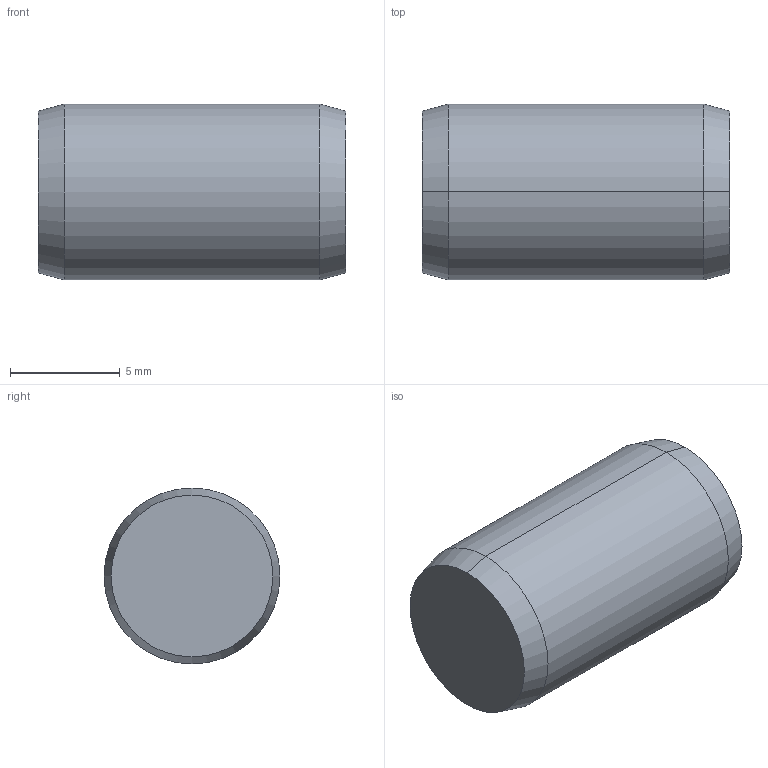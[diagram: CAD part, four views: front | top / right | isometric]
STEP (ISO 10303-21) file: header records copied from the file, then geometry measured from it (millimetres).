
FILE_DESCRIPTION (( 'STEP AP203' ), '1' );
FILE_NAME ('P1206.080-014.step', '2017-06-14T08:25:11', ( 'User' ), ( '' ), 'SwSTEP 2.0', 'SolidWorks 2009', '' );
FILE_SCHEMA (( 'CONFIG_CONTROL_DESIGN' ));
Length unit declared in the file: millimetre
Products named in the file (1): P1206.080-014
Bounding box: 14 x 8 x 8 mm (x, y, z)
Volume: 694.3 mm3; surface area: 436.5 mm2
Topology: 1 solids, 1 shells, 8 faces, 14 edges, 8 vertices
Faces by surface type: cone 4, cylinder 2, plane 2
Entity records: 271 total; most frequent: DIRECTION 40, CARTESIAN_POINT 31, ORIENTED_EDGE 28, AXIS2_PLACEMENT_3D 17, EDGE_CURVE 14, PERSON_AND_ORGANIZATION 8, CIRCLE 8, FACE_OUTER_BOUND 8
